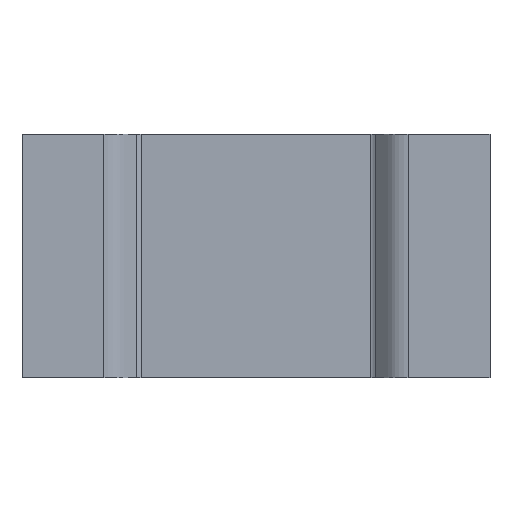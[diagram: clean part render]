
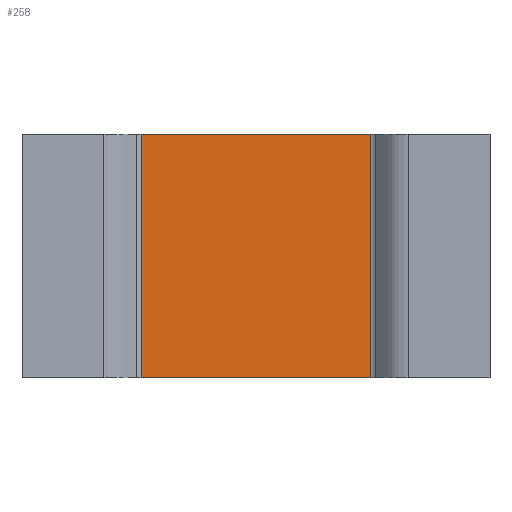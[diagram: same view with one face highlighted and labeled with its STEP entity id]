
A CAD part, front view. The second image highlights one B-rep face of the part: STEP entity #258.
In plain terms, the highlighted planar face has unit normal (0, -1, 0).
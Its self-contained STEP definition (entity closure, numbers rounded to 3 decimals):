
#166 = PLANE ( 'NONE',  #837 ) ;
#188 = VERTEX_POINT ( 'NONE', #3193 ) ;
#258 = ADVANCED_FACE ( 'NONE', ( #1537 ), #166, .T. ) ;
#268 = LINE ( 'NONE', #4030, #351 ) ;
#351 = VECTOR ( 'NONE', #2699, 1000. ) ;
#723 = CARTESIAN_POINT ( 'NONE',  ( 2.45, 0.5, 2.6 ) ) ;
#837 = AXIS2_PLACEMENT_3D ( 'NONE', #5695, #4293, #5663 ) ;
#1137 = VECTOR ( 'NONE', #4247, 1000. ) ;
#1161 = ORIENTED_EDGE ( 'NONE', *, *, #5885, .F. ) ;
#1230 = VECTOR ( 'NONE', #2389, 1000. ) ;
#1537 = FACE_OUTER_BOUND ( 'NONE', #4818, .T. ) ;
#1593 = VERTEX_POINT ( 'NONE', #2119 ) ;
#1647 = VECTOR ( 'NONE', #5783, 1000. ) ;
#2119 = CARTESIAN_POINT ( 'NONE',  ( -2.45, 0.5, -2.6 ) ) ;
#2389 = DIRECTION ( 'NONE',  ( 1., 0., 0. ) ) ;
#2699 = DIRECTION ( 'NONE',  ( -1., 0., 0. ) ) ;
#2878 = CARTESIAN_POINT ( 'NONE',  ( -2.45, 0.5, 2.6 ) ) ;
#3008 = EDGE_CURVE ( 'NONE', #1593, #3154, #3591, .T. ) ;
#3154 = VERTEX_POINT ( 'NONE', #6031 ) ;
#3193 = CARTESIAN_POINT ( 'NONE',  ( 2.45, 0.5, -2.6 ) ) ;
#3242 = LINE ( 'NONE', #2878, #1230 ) ;
#3591 = LINE ( 'NONE', #5512, #1647 ) ;
#3789 = LINE ( 'NONE', #5553, #1137 ) ;
#3997 = EDGE_CURVE ( 'NONE', #3154, #5507, #3242, .T. ) ;
#4030 = CARTESIAN_POINT ( 'NONE',  ( -2.45, 0.5, -2.6 ) ) ;
#4247 = DIRECTION ( 'NONE',  ( 0., 0., 1. ) ) ;
#4293 = DIRECTION ( 'NONE',  ( 0., -1., 0. ) ) ;
#4319 = ORIENTED_EDGE ( 'NONE', *, *, #3008, .F. ) ;
#4818 = EDGE_LOOP ( 'NONE', ( #1161, #5393, #4910, #4319 ) ) ;
#4910 = ORIENTED_EDGE ( 'NONE', *, *, #3997, .F. ) ;
#5393 = ORIENTED_EDGE ( 'NONE', *, *, #5639, .T. ) ;
#5507 = VERTEX_POINT ( 'NONE', #723 ) ;
#5512 = CARTESIAN_POINT ( 'NONE',  ( -2.45, 0.5, -7.537 ) ) ;
#5553 = CARTESIAN_POINT ( 'NONE',  ( 2.45, 0.5, -7.537 ) ) ;
#5639 = EDGE_CURVE ( 'NONE', #188, #5507, #3789, .T. ) ;
#5663 = DIRECTION ( 'NONE',  ( 0., 0., -1. ) ) ;
#5695 = CARTESIAN_POINT ( 'NONE',  ( -2.45, 0.5, -7.537 ) ) ;
#5783 = DIRECTION ( 'NONE',  ( 0., 0., 1. ) ) ;
#5885 = EDGE_CURVE ( 'NONE', #188, #1593, #268, .T. ) ;
#6031 = CARTESIAN_POINT ( 'NONE',  ( -2.45, 0.5, 2.6 ) ) ;
